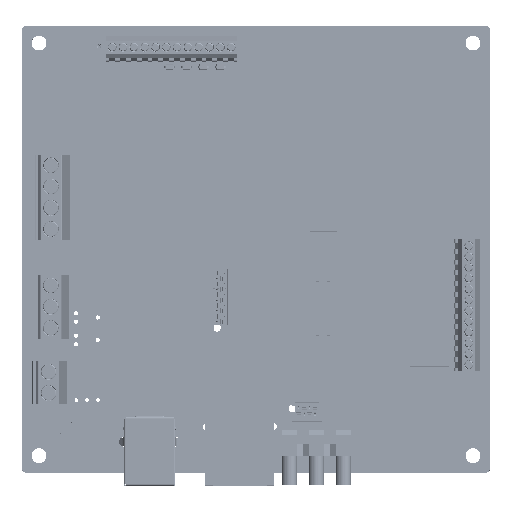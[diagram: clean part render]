
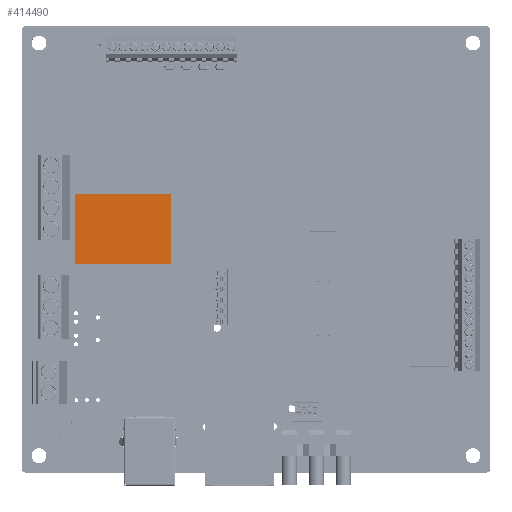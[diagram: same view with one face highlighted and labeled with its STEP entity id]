
A CAD part, top view. The second image highlights one B-rep face of the part: STEP entity #414490.
In plain terms, the highlighted planar face has unit normal (0, 0, 1).
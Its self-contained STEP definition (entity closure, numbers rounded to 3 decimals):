
#414176 = VERTEX_POINT('',#414177);
#414177 = CARTESIAN_POINT('',(-11.25,-8.25,19.));
#414184 = PLANE('',#414185);
#414185 = AXIS2_PLACEMENT_3D('',#414186,#414187,#414188);
#414186 = CARTESIAN_POINT('',(-11.25,-8.25,0.));
#414187 = DIRECTION('',(0.,1.,0.));
#414188 = DIRECTION('',(1.,0.,0.));
#414196 = PLANE('',#414197);
#414197 = AXIS2_PLACEMENT_3D('',#414198,#414199,#414200);
#414198 = CARTESIAN_POINT('',(-11.25,8.25,0.));
#414199 = DIRECTION('',(1.,0.,0.));
#414200 = DIRECTION('',(0.,-1.,0.));
#414208 = EDGE_CURVE('',#414176,#414209,#414211,.T.);
#414209 = VERTEX_POINT('',#414210);
#414210 = CARTESIAN_POINT('',(11.25,-8.25,19.));
#414211 = SURFACE_CURVE('',#414212,(#414216,#414223),.PCURVE_S1.);
#414212 = LINE('',#414213,#414214);
#414213 = CARTESIAN_POINT('',(-11.25,-8.25,19.));
#414214 = VECTOR('',#414215,1.);
#414215 = DIRECTION('',(1.,0.,0.));
#414216 = PCURVE('',#414184,#414217);
#414217 = DEFINITIONAL_REPRESENTATION('',(#414218),#414222);
#414218 = LINE('',#414219,#414220);
#414219 = CARTESIAN_POINT('',(0.,-19.));
#414220 = VECTOR('',#414221,1.);
#414221 = DIRECTION('',(1.,0.));
#414222 = ( GEOMETRIC_REPRESENTATION_CONTEXT(2) 
PARAMETRIC_REPRESENTATION_CONTEXT() REPRESENTATION_CONTEXT('2D SPACE',''
  ) );
#414223 = PCURVE('',#414224,#414229);
#414224 = PLANE('',#414225);
#414225 = AXIS2_PLACEMENT_3D('',#414226,#414227,#414228);
#414226 = CARTESIAN_POINT('',(-11.25,-8.25,19.));
#414227 = DIRECTION('',(0.,0.,-1.));
#414228 = DIRECTION('',(-1.,0.,0.));
#414229 = DEFINITIONAL_REPRESENTATION('',(#414230),#414234);
#414230 = LINE('',#414231,#414232);
#414231 = CARTESIAN_POINT('',(0.,0.));
#414232 = VECTOR('',#414233,1.);
#414233 = DIRECTION('',(-1.,0.));
#414234 = ( GEOMETRIC_REPRESENTATION_CONTEXT(2) 
PARAMETRIC_REPRESENTATION_CONTEXT() REPRESENTATION_CONTEXT('2D SPACE',''
  ) );
#414252 = PLANE('',#414253);
#414253 = AXIS2_PLACEMENT_3D('',#414254,#414255,#414256);
#414254 = CARTESIAN_POINT('',(11.25,-8.25,0.));
#414255 = DIRECTION('',(-1.,0.,0.));
#414256 = DIRECTION('',(0.,1.,0.));
#414294 = EDGE_CURVE('',#414209,#414295,#414297,.T.);
#414295 = VERTEX_POINT('',#414296);
#414296 = CARTESIAN_POINT('',(11.25,8.25,19.));
#414297 = SURFACE_CURVE('',#414298,(#414302,#414309),.PCURVE_S1.);
#414298 = LINE('',#414299,#414300);
#414299 = CARTESIAN_POINT('',(11.25,-8.25,19.));
#414300 = VECTOR('',#414301,1.);
#414301 = DIRECTION('',(0.,1.,0.));
#414302 = PCURVE('',#414252,#414303);
#414303 = DEFINITIONAL_REPRESENTATION('',(#414304),#414308);
#414304 = LINE('',#414305,#414306);
#414305 = CARTESIAN_POINT('',(0.,-19.));
#414306 = VECTOR('',#414307,1.);
#414307 = DIRECTION('',(1.,0.));
#414308 = ( GEOMETRIC_REPRESENTATION_CONTEXT(2) 
PARAMETRIC_REPRESENTATION_CONTEXT() REPRESENTATION_CONTEXT('2D SPACE',''
  ) );
#414309 = PCURVE('',#414224,#414310);
#414310 = DEFINITIONAL_REPRESENTATION('',(#414311),#414315);
#414311 = LINE('',#414312,#414313);
#414312 = CARTESIAN_POINT('',(-22.5,0.));
#414313 = VECTOR('',#414314,1.);
#414314 = DIRECTION('',(0.,1.));
#414315 = ( GEOMETRIC_REPRESENTATION_CONTEXT(2) 
PARAMETRIC_REPRESENTATION_CONTEXT() REPRESENTATION_CONTEXT('2D SPACE',''
  ) );
#414333 = PLANE('',#414334);
#414334 = AXIS2_PLACEMENT_3D('',#414335,#414336,#414337);
#414335 = CARTESIAN_POINT('',(11.25,8.25,0.));
#414336 = DIRECTION('',(0.,-1.,0.));
#414337 = DIRECTION('',(-1.,0.,0.));
#414370 = EDGE_CURVE('',#414295,#414371,#414373,.T.);
#414371 = VERTEX_POINT('',#414372);
#414372 = CARTESIAN_POINT('',(-11.25,8.25,19.));
#414373 = SURFACE_CURVE('',#414374,(#414378,#414385),.PCURVE_S1.);
#414374 = LINE('',#414375,#414376);
#414375 = CARTESIAN_POINT('',(11.25,8.25,19.));
#414376 = VECTOR('',#414377,1.);
#414377 = DIRECTION('',(-1.,0.,0.));
#414378 = PCURVE('',#414333,#414379);
#414379 = DEFINITIONAL_REPRESENTATION('',(#414380),#414384);
#414380 = LINE('',#414381,#414382);
#414381 = CARTESIAN_POINT('',(0.,-19.));
#414382 = VECTOR('',#414383,1.);
#414383 = DIRECTION('',(1.,0.));
#414384 = ( GEOMETRIC_REPRESENTATION_CONTEXT(2) 
PARAMETRIC_REPRESENTATION_CONTEXT() REPRESENTATION_CONTEXT('2D SPACE',''
  ) );
#414385 = PCURVE('',#414224,#414386);
#414386 = DEFINITIONAL_REPRESENTATION('',(#414387),#414391);
#414387 = LINE('',#414388,#414389);
#414388 = CARTESIAN_POINT('',(-22.5,16.5));
#414389 = VECTOR('',#414390,1.);
#414390 = DIRECTION('',(1.,0.));
#414391 = ( GEOMETRIC_REPRESENTATION_CONTEXT(2) 
PARAMETRIC_REPRESENTATION_CONTEXT() REPRESENTATION_CONTEXT('2D SPACE',''
  ) );
#414441 = EDGE_CURVE('',#414371,#414176,#414442,.T.);
#414442 = SURFACE_CURVE('',#414443,(#414447,#414454),.PCURVE_S1.);
#414443 = LINE('',#414444,#414445);
#414444 = CARTESIAN_POINT('',(-11.25,8.25,19.));
#414445 = VECTOR('',#414446,1.);
#414446 = DIRECTION('',(0.,-1.,0.));
#414447 = PCURVE('',#414196,#414448);
#414448 = DEFINITIONAL_REPRESENTATION('',(#414449),#414453);
#414449 = LINE('',#414450,#414451);
#414450 = CARTESIAN_POINT('',(0.,-19.));
#414451 = VECTOR('',#414452,1.);
#414452 = DIRECTION('',(1.,0.));
#414453 = ( GEOMETRIC_REPRESENTATION_CONTEXT(2) 
PARAMETRIC_REPRESENTATION_CONTEXT() REPRESENTATION_CONTEXT('2D SPACE',''
  ) );
#414454 = PCURVE('',#414224,#414455);
#414455 = DEFINITIONAL_REPRESENTATION('',(#414456),#414460);
#414456 = LINE('',#414457,#414458);
#414457 = CARTESIAN_POINT('',(0.,16.5));
#414458 = VECTOR('',#414459,1.);
#414459 = DIRECTION('',(0.,-1.));
#414460 = ( GEOMETRIC_REPRESENTATION_CONTEXT(2) 
PARAMETRIC_REPRESENTATION_CONTEXT() REPRESENTATION_CONTEXT('2D SPACE',''
  ) );
#414490 = ADVANCED_FACE('',(#414491),#414224,.F.);
#414491 = FACE_BOUND('',#414492,.T.);
#414492 = EDGE_LOOP('',(#414493,#414494,#414495,#414496));
#414493 = ORIENTED_EDGE('',*,*,#414208,.T.);
#414494 = ORIENTED_EDGE('',*,*,#414294,.T.);
#414495 = ORIENTED_EDGE('',*,*,#414370,.T.);
#414496 = ORIENTED_EDGE('',*,*,#414441,.T.);
